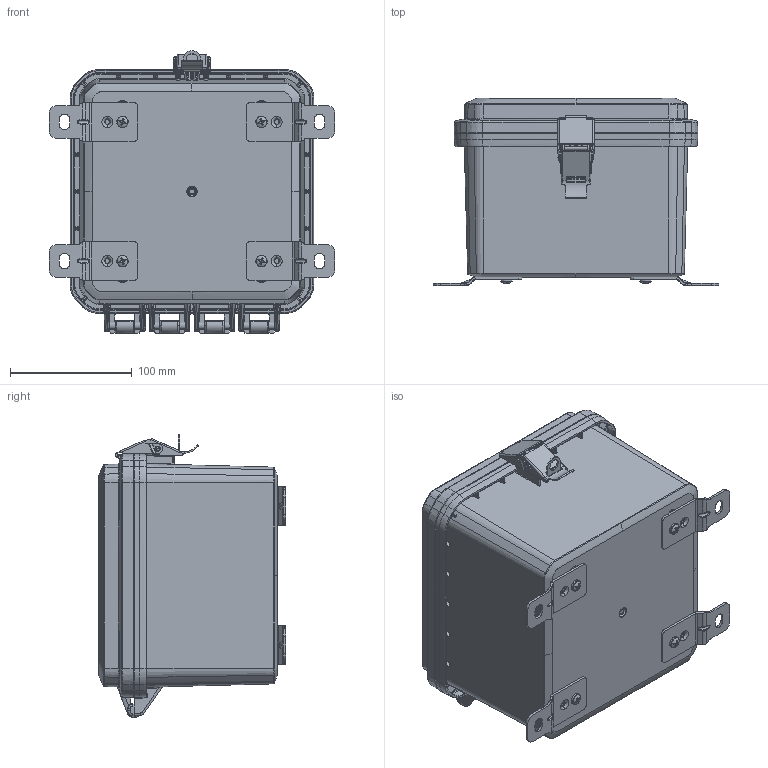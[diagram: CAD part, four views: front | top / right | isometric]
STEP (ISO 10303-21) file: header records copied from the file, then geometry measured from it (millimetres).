
FILE_DESCRIPTION (( 'STEP AP214' ), '1' );
FILE_NAME ('HP-070705-24.STEP', '2025-02-12T11:38:41', ( '' ), ( '' ), 'SwSTEP 2.0', 'SolidWorks 2024', '' );
FILE_SCHEMA (( 'AUTOMOTIVE_DESIGN' ));
Length unit declared in the file: inch
Products named in the file (16): ZH-01L2; ZH-01L5; HP-070705-24; SCREWS-049_SCREWS-049; ZH-01L4; HP-0707xB_HP-07074B-00; LABEL-105; ZH-01L3; ZH-01L; HP-0707G; ZH-01L1; ZH-91F-01_ZH-91F-01; INSERTS-4; HP-07071CG_HP-07071CG-02; HP-0707xBI_HP-07074BI-00; HP-07071C_HP-07071C-02
Assembly tree (24 placements, depth 3):
  HP-070705-24
    HP-0707xBI_HP-07074BI-00
      HP-0707xB_HP-07074B-00
      LABEL-105
      INSERTS-4  x4
    HP-07071CG_HP-07071CG-02
      HP-07071C_HP-07071C-02
      HP-0707G
    ZH-01L
      ZH-01L1
      ZH-01L2
      ZH-01L3
      ZH-01L4
      ZH-01L5
    SCREWS-049_SCREWS-049  x4
    ZH-91F-01_ZH-91F-01  x4
Bounding box: 234.95 x 153.88 x 232.37 mm (x, y, z)
Volume: 689015.9 mm3; surface area: 452265.9 mm2
Topology: 21 solids, 21 shells, 4841 faces, 11542 edges, 6700 vertices
Faces by surface type: bspline 1615, cylinder 1161, plane 1059, torus 526, cone 312, sphere 168
Entity records: 180311 total; most frequent: CARTESIAN_POINT 93660, ORIENTED_EDGE 20280, DIRECTION 15560, EDGE_CURVE 10140, AXIS2_PLACEMENT_3D 6385, VERTEX_POINT 5863, EDGE_LOOP 4393, FACE_OUTER_BOUND 4325
